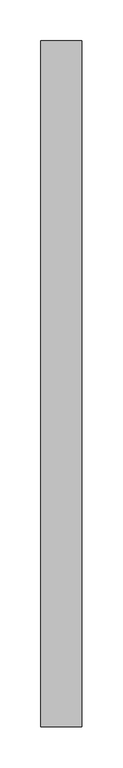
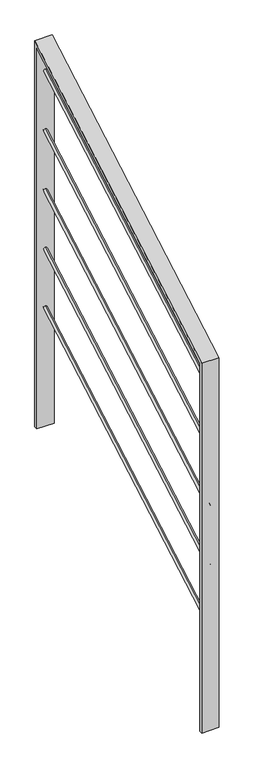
"""IFC4 building model written with IfcOpenShell, lengths in millimetres: railing geometry, Garde-corps 2 : Garde-corps 2."""

from ifc_helpers import new_model, si_unit, point, frame, origin, place, context, project, spatial, polyline, ellipse_curve, trimmed, outline, extrude, source, transform, mapped, element, save
from ifc_brep_helpers import plane_surface, extruded_surface, advanced_brep


def railing_26a27903(model_context):
    return source(origin(), model_context, "Body", "SolidModel", [
        advanced_brep(
        [(10648.0743178, 1345.880769, 5595.7498267), (10648.0743178, 1350.1884613, 5588.2113651), (10648.0743178, 2175.0529697, 6069.5625128), (10648.0743178, 2179.360662, 6062.0240513)],
        [
            (0, 1, ellipse_curve(frame((10648.0743178, 1348.0346151, 5591.9805959), z_axis=(0.0, -0.8682431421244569, -0.4961389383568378), x_axis=(-1.0, 0.0, 0.0)), 5.0, 4.3412157)),
            (1, 0, ellipse_curve(frame((10648.0743178, 1348.0346151, 5591.9805959), z_axis=(0.0, -0.8682431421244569, -0.4961389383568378), x_axis=(-1.0, 0.0, 0.0)), 5.0, 4.3412157)),
            (2, 3, ellipse_curve(frame((10648.0743178, 2177.2068159, 6065.793282), z_axis=(0.0, 0.8682431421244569, 0.4961389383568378), x_axis=(-1.0, 0.0, 0.0)), 5.0, 4.3412157)),
            (3, 2, ellipse_curve(frame((10648.0743178, 2177.2068159, 6065.793282), z_axis=(0.0, 0.8682431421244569, 0.4961389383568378), x_axis=(-1.0, 0.0, 0.0)), 5.0, 4.3412157)),
            (0, 2),
            (3, 1),
        ],
        [
            plane_surface(frame((10678.2466393, 1309.672769, 5659.1138267), z_axis=(0.0, -0.868243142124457, -0.4961389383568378), x_axis=(-1.0, 0.0, 0.0))),
            plane_surface(frame((10678.2466393, 2138.8449697, 6132.9265128), z_axis=(0.0, 0.868243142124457, 0.4961389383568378), x_axis=(-1.0, 0.0, 0.0))),
            extruded_surface(trimmed(ellipse_curve(frame((10648.0743178, 2177.2068159, 6065.793282), z_axis=(0.0, -0.8682431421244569, -0.4961389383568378), x_axis=(-1.0, 0.0, 0.0)), 5.0, 4.3412157), [point((10648.0743178, 2175.0529697, 6069.5625128))], [point((10648.0743178, 2179.360662, 6062.0240513))], True, "CARTESIAN"), (0.0, -829.1722007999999, -473.81268610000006), 955.0000000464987),
            extruded_surface(trimmed(ellipse_curve(frame((10648.0743178, 2177.2068159, 6065.793282), z_axis=(0.0, -0.8682431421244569, -0.4961389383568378), x_axis=(-1.0, 0.0, 0.0)), 5.0, 4.3412157), [point((10648.0743178, 2179.360662, 6062.0240513))], [point((10648.0743178, 2175.0529697, 6069.5625128))], True, "CARTESIAN"), (0.0, -829.1722007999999, -473.81268610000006), 955.0000000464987),
        ],
        [
            (0, [[1, 2]]),
            (1, [[3, 4]]),
            (2, [[-1, 5, -4, 6]]),
            (3, [[-2, -6, -3, -5]]),
        ],
    ),
        advanced_brep(
        [(10648.0743178, 1345.880769, 5775.7498267), (10648.0743178, 1350.1884613, 5768.2113651), (10648.0743178, 2175.0529697, 6249.5625128), (10648.0743178, 2179.360662, 6242.0240513)],
        [
            (0, 1, ellipse_curve(frame((10648.0743178, 1348.0346151, 5771.9805959), z_axis=(0.0, -0.8682431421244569, -0.4961389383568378), x_axis=(-1.0, 0.0, 0.0)), 5.0, 4.3412157)),
            (1, 0, ellipse_curve(frame((10648.0743178, 1348.0346151, 5771.9805959), z_axis=(0.0, -0.8682431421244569, -0.4961389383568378), x_axis=(-1.0, 0.0, 0.0)), 5.0, 4.3412157)),
            (2, 3, ellipse_curve(frame((10648.0743178, 2177.2068159, 6245.793282), z_axis=(0.0, 0.8682431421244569, 0.4961389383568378), x_axis=(-1.0, 0.0, 0.0)), 5.0, 4.3412157)),
            (3, 2, ellipse_curve(frame((10648.0743178, 2177.2068159, 6245.793282), z_axis=(0.0, 0.8682431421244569, 0.4961389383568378), x_axis=(-1.0, 0.0, 0.0)), 5.0, 4.3412157)),
            (0, 2),
            (3, 1),
        ],
        [
            plane_surface(frame((10678.2466393, 1309.672769, 5839.1138267), z_axis=(0.0, -0.868243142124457, -0.4961389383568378), x_axis=(-1.0, 0.0, 0.0))),
            plane_surface(frame((10678.2466393, 2138.8449697, 6312.9265128), z_axis=(0.0, 0.868243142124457, 0.4961389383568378), x_axis=(-1.0, 0.0, 0.0))),
            extruded_surface(trimmed(ellipse_curve(frame((10648.0743178, 2177.2068159, 6245.793282), z_axis=(0.0, -0.8682431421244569, -0.4961389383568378), x_axis=(-1.0, 0.0, 0.0)), 5.0, 4.3412157), [point((10648.0743178, 2175.0529697, 6249.5625128))], [point((10648.0743178, 2179.360662, 6242.0240513))], True, "CARTESIAN"), (0.0, -829.1722007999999, -473.81268610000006), 955.0000000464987),
            extruded_surface(trimmed(ellipse_curve(frame((10648.0743178, 2177.2068159, 6245.793282), z_axis=(0.0, -0.8682431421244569, -0.4961389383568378), x_axis=(-1.0, 0.0, 0.0)), 5.0, 4.3412157), [point((10648.0743178, 2179.360662, 6242.0240513))], [point((10648.0743178, 2175.0529697, 6249.5625128))], True, "CARTESIAN"), (0.0, -829.1722007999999, -473.81268610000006), 955.0000000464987),
        ],
        [
            (0, [[1, 2]]),
            (1, [[3, 4]]),
            (2, [[-1, 5, -4, 6]]),
            (3, [[-2, -6, -3, -5]]),
        ],
    ),
        advanced_brep(
        [(10648.0743178, 1345.880769, 5955.7498267), (10648.0743178, 1350.1884613, 5948.2113651), (10648.0743178, 2175.0529697, 6429.5625128), (10648.0743178, 2179.360662, 6422.0240513)],
        [
            (0, 1, ellipse_curve(frame((10648.0743178, 1348.0346151, 5951.9805959), z_axis=(0.0, -0.8682431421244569, -0.4961389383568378), x_axis=(-1.0, 0.0, 0.0)), 5.0, 4.3412157)),
            (1, 0, ellipse_curve(frame((10648.0743178, 1348.0346151, 5951.9805959), z_axis=(0.0, -0.8682431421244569, -0.4961389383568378), x_axis=(-1.0, 0.0, 0.0)), 5.0, 4.3412157)),
            (2, 3, ellipse_curve(frame((10648.0743178, 2177.2068159, 6425.793282), z_axis=(0.0, 0.8682431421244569, 0.4961389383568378), x_axis=(-1.0, 0.0, 0.0)), 5.0, 4.3412157)),
            (3, 2, ellipse_curve(frame((10648.0743178, 2177.2068159, 6425.793282), z_axis=(0.0, 0.8682431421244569, 0.4961389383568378), x_axis=(-1.0, 0.0, 0.0)), 5.0, 4.3412157)),
            (0, 2),
            (3, 1),
        ],
        [
            plane_surface(frame((10678.2466393, 1309.672769, 6019.1138267), z_axis=(0.0, -0.868243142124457, -0.4961389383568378), x_axis=(-1.0, 0.0, 0.0))),
            plane_surface(frame((10678.2466393, 2138.8449697, 6492.9265128), z_axis=(0.0, 0.868243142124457, 0.4961389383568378), x_axis=(-1.0, 0.0, 0.0))),
            extruded_surface(trimmed(ellipse_curve(frame((10648.0743178, 2177.2068159, 6425.793282), z_axis=(0.0, -0.8682431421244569, -0.4961389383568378), x_axis=(-1.0, 0.0, 0.0)), 5.0, 4.3412157), [point((10648.0743178, 2175.0529697, 6429.5625128))], [point((10648.0743178, 2179.360662, 6422.0240513))], True, "CARTESIAN"), (0.0, -829.1722007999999, -473.81268610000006), 955.0000000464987),
            extruded_surface(trimmed(ellipse_curve(frame((10648.0743178, 2177.2068159, 6425.793282), z_axis=(0.0, -0.8682431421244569, -0.4961389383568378), x_axis=(-1.0, 0.0, 0.0)), 5.0, 4.3412157), [point((10648.0743178, 2179.360662, 6422.0240513))], [point((10648.0743178, 2175.0529697, 6429.5625128))], True, "CARTESIAN"), (0.0, -829.1722007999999, -473.81268610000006), 955.0000000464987),
        ],
        [
            (0, [[1, 2]]),
            (1, [[3, 4]]),
            (2, [[-1, 5, -4, 6]]),
            (3, [[-2, -6, -3, -5]]),
        ],
    ),
        advanced_brep(
        [(10648.0743178, 1345.880769, 6139.0798267), (10648.0743178, 1350.1884613, 6131.5413651), (10648.0743178, 2175.0529697, 6612.8925128), (10648.0743178, 2179.360662, 6605.3540513)],
        [
            (0, 1, ellipse_curve(frame((10648.0743178, 1348.0346151, 6135.3105959), z_axis=(0.0, -0.8682431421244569, -0.4961389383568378), x_axis=(-1.0, 0.0, 0.0)), 5.0, 4.3412157)),
            (1, 0, ellipse_curve(frame((10648.0743178, 1348.0346151, 6135.3105959), z_axis=(0.0, -0.8682431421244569, -0.4961389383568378), x_axis=(-1.0, 0.0, 0.0)), 5.0, 4.3412157)),
            (2, 3, ellipse_curve(frame((10648.0743178, 2177.2068159, 6609.123282), z_axis=(0.0, 0.8682431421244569, 0.4961389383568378), x_axis=(-1.0, 0.0, 0.0)), 5.0, 4.3412157)),
            (3, 2, ellipse_curve(frame((10648.0743178, 2177.2068159, 6609.123282), z_axis=(0.0, 0.8682431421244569, 0.4961389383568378), x_axis=(-1.0, 0.0, 0.0)), 5.0, 4.3412157)),
            (0, 2),
            (3, 1),
        ],
        [
            plane_surface(frame((10678.2466393, 1309.672769, 6202.4438267), z_axis=(0.0, -0.868243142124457, -0.4961389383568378), x_axis=(-1.0, 0.0, 0.0))),
            plane_surface(frame((10678.2466393, 2138.8449697, 6676.2565128), z_axis=(0.0, 0.868243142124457, 0.4961389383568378), x_axis=(-1.0, 0.0, 0.0))),
            extruded_surface(trimmed(ellipse_curve(frame((10648.0743178, 2177.2068159, 6609.123282), z_axis=(0.0, -0.8682431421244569, -0.4961389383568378), x_axis=(-1.0, 0.0, 0.0)), 5.0, 4.3412157), [point((10648.0743178, 2175.0529697, 6612.8925128))], [point((10648.0743178, 2179.360662, 6605.3540513))], True, "CARTESIAN"), (0.0, -829.1722007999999, -473.81268609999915), 955.0000000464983),
            extruded_surface(trimmed(ellipse_curve(frame((10648.0743178, 2177.2068159, 6609.123282), z_axis=(0.0, -0.8682431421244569, -0.4961389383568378), x_axis=(-1.0, 0.0, 0.0)), 5.0, 4.3412157), [point((10648.0743178, 2179.360662, 6605.3540513))], [point((10648.0743178, 2175.0529697, 6612.8925128))], True, "CARTESIAN"), (0.0, -829.1722007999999, -473.81268609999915), 955.0000000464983),
        ],
        [
            (0, [[1, 2]]),
            (1, [[3, 4]]),
            (2, [[-1, 5, -4, 6]]),
            (3, [[-2, -6, -3, -5]]),
        ],
    ),
        advanced_brep(
        [(10648.0743178, 1345.880769, 6322.4098267), (10648.0743178, 1350.1884613, 6314.8713651), (10648.0743178, 2175.0529697, 6796.2225128), (10648.0743178, 2179.360662, 6788.6840513)],
        [
            (0, 1, ellipse_curve(frame((10648.0743178, 1348.0346151, 6318.6405959), z_axis=(0.0, -0.868243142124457, -0.49613893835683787), x_axis=(-1.0, 0.0, 0.0)), 5.0, 4.3412157)),
            (1, 0, ellipse_curve(frame((10648.0743178, 1348.0346151, 6318.6405959), z_axis=(0.0, -0.868243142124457, -0.49613893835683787), x_axis=(-1.0, 0.0, 0.0)), 5.0, 4.3412157)),
            (2, 3, ellipse_curve(frame((10648.0743178, 2177.2068159, 6792.453282), z_axis=(0.0, 0.868243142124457, 0.49613893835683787), x_axis=(-1.0, 0.0, 0.0)), 5.0, 4.3412157)),
            (3, 2, ellipse_curve(frame((10648.0743178, 2177.2068159, 6792.453282), z_axis=(0.0, 0.868243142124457, 0.49613893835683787), x_axis=(-1.0, 0.0, 0.0)), 5.0, 4.3412157)),
            (0, 2),
            (3, 1),
        ],
        [
            plane_surface(frame((10678.2466393, 1309.672769, 6385.7738267), z_axis=(0.0, -0.868243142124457, -0.4961389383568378), x_axis=(-1.0, 0.0, 0.0))),
            plane_surface(frame((10678.2466393, 2138.8449697, 6859.5865128), z_axis=(0.0, 0.868243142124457, 0.4961389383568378), x_axis=(-1.0, 0.0, 0.0))),
            extruded_surface(trimmed(ellipse_curve(frame((10648.0743178, 2177.2068159, 6792.453282), z_axis=(0.0, -0.868243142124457, -0.49613893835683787), x_axis=(-1.0, 0.0, 0.0)), 5.0, 4.3412157), [point((10648.0743178, 2175.0529697, 6796.2225128))], [point((10648.0743178, 2179.360662, 6788.6840513))], True, "CARTESIAN"), (0.0, -829.1722007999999, -473.81268610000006), 955.0000000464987),
            extruded_surface(trimmed(ellipse_curve(frame((10648.0743178, 2177.2068159, 6792.453282), z_axis=(0.0, -0.868243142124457, -0.49613893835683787), x_axis=(-1.0, 0.0, 0.0)), 5.0, 4.3412157), [point((10648.0743178, 2179.360662, 6788.6840513))], [point((10648.0743178, 2175.0529697, 6796.2225128))], True, "CARTESIAN"), (0.0, -829.1722007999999, -473.81268610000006), 955.0000000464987),
        ],
        [
            (0, [[1, 2]]),
            (1, [[3, 4]]),
            (2, [[-1, 5, -4, 6]]),
            (3, [[-2, -6, -3, -5]]),
        ],
    ),
        extrude(outline(polyline([(1352.0685723, 5270.0), (1342.0685723, 5270.0), (1342.0685723, 6404.2857143), (2182.0685723, 6884.2857143), (2182.0685723, 5700.0), (2172.0685723, 5700.0), (2172.0685723, 6867.0539175), (1352.0685723, 6398.4824889), (1352.0685723, 5270.0)])), frame((10623.0743178, 0.0, 0.0), z_axis=(1.0, 0.0, 0.0), x_axis=(0.0, 1.0, 0.0)), (0.0, 0.0, 1.0), 50.0),
    ])


if __name__ == "__main__":
    model = new_model("IFC4")
    model_context = context("Model", 3, world=origin())
    ifc_project = project(units=[si_unit("LENGTHUNIT", "METRE", prefix="MILLI")], contexts=[model_context])
    site = spatial("IfcSite", under=ifc_project)
    building = spatial("IfcBuilding", under=site)
    placement = place(None, origin())
    railing_shape = railing_26a27903(model_context)
    element("IfcRailing", 1, ObjectType="Garde-corps 2 : Garde-corps 2", at=placement, inside=building, context=model_context, shape_type="MappedRepresentation", body=[
        mapped(railing_shape, transform((0.0, 0.0, 0.0), x_axis=(1.0, 0.0, 0.0), y_axis=(0.0, 1.0, 0.0), z_axis=(0.0, 0.0, 1.0))),
    ])
    save(model, "model.ifc")
